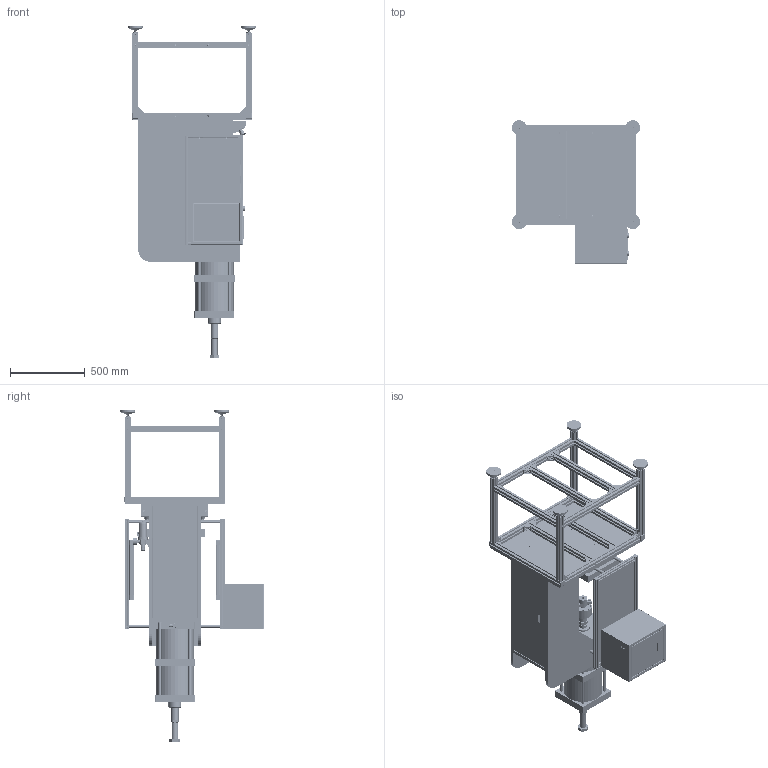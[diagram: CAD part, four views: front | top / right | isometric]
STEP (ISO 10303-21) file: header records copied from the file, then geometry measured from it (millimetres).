
FILE_DESCRIPTION((''),'2;1');
FILE_NAME('ZHENJI_ASM','2026-06-04T09:45:00',('zxb27'),(''),'CREO PARAMETRIC BY PTC INC, 2022164','CREO PARAMETRIC BY PTC INC, 2022164','');
FILE_SCHEMA(('AUTOMOTIVE_DESIGN { 1 0 10303 214 1 1 1 1 }'));
Products named in the file (1): ZHENJI_ASM
Bounding box: 860 x 960 x 2224.5 mm (x, y, z)
Surface area: 15836953.6 mm2 (no closed solid volume)
Topology: 0 solids, 228 shells, 10388 faces, 28086 edges, 17944 vertices
Faces by surface type: plane 6633, cylinder 2728, cone 558, bspline 278, torus 158, sphere 32, extrusion 1
Entity records: 489633 total; most frequent: CARTESIAN_POINT 168143, ORIENTED_EDGE 55468, DIRECTION 52572, EDGE_CURVE 27985, VECTOR 19212, LINE 19211, VERTEX_POINT 17944, AXIS2_PLACEMENT_3D 16680
